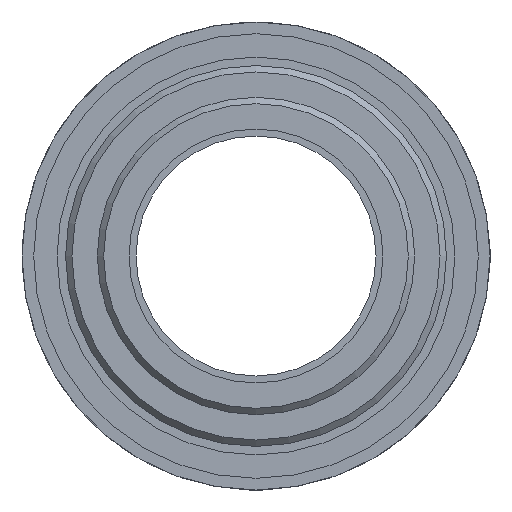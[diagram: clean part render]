
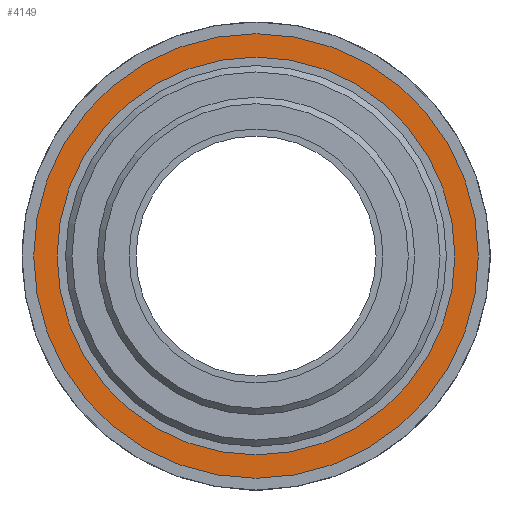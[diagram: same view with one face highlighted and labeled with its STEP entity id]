
A CAD part, left-side view. The second image highlights one B-rep face of the part: STEP entity #4149.
In plain terms, the highlighted planar face has unit normal (-1, 0, 0).
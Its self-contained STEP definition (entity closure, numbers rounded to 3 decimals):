
#292=FACE_BOUND('',#861,.T.);
#313=CIRCLE('',#4441,16.575);
#314=CIRCLE('',#4444,18.525);
#566=FACE_OUTER_BOUND('',#860,.T.);
#860=EDGE_LOOP('',(#2796));
#861=EDGE_LOOP('',(#2797));
#1717=VERTEX_POINT('',#6322);
#1718=VERTEX_POINT('',#6326);
#2109=EDGE_CURVE('',#1717,#1717,#313,.T.);
#2110=EDGE_CURVE('',#1718,#1718,#314,.T.);
#2796=ORIENTED_EDGE('',*,*,#2110,.F.);
#2797=ORIENTED_EDGE('',*,*,#2109,.T.);
#4000=PLANE('',#4446);
#4149=ADVANCED_FACE('',(#566,#292),#4000,.F.);
#4441=AXIS2_PLACEMENT_3D('',#6323,#5020,#5021);
#4444=AXIS2_PLACEMENT_3D('',#6327,#5026,#5027);
#4446=AXIS2_PLACEMENT_3D('',#6330,#5030,#5031);
#5020=DIRECTION('center_axis',(1.,0.,0.));
#5021=DIRECTION('ref_axis',(0.,0.,-1.));
#5026=DIRECTION('center_axis',(1.,0.,0.));
#5027=DIRECTION('ref_axis',(0.,0.,-1.));
#5030=DIRECTION('center_axis',(1.,0.,0.));
#5031=DIRECTION('ref_axis',(0.,0.,-1.));
#6322=CARTESIAN_POINT('',(2.53,0.,16.575));
#6323=CARTESIAN_POINT('Origin',(2.53,0.,0.));
#6326=CARTESIAN_POINT('',(2.53,0.,18.525));
#6327=CARTESIAN_POINT('Origin',(2.53,0.,0.));
#6330=CARTESIAN_POINT('Origin',(2.53,0.,0.));
